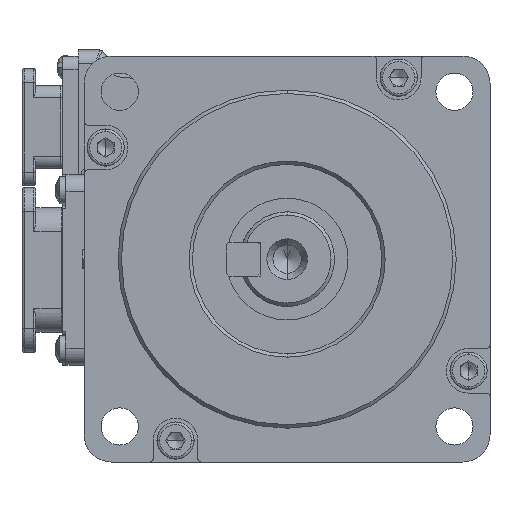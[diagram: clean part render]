
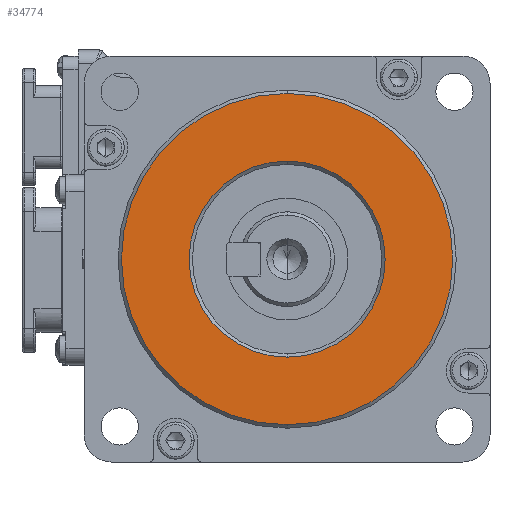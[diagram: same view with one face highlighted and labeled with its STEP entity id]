
A CAD part, left-side view. The second image highlights one B-rep face of the part: STEP entity #34774.
In plain terms, the highlighted planar face has unit normal (-1, 0, 0).
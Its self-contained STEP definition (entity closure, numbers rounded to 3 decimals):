
#4857 = CARTESIAN_POINT ( 'NONE',  ( -58., -9.238, 153.579 ) ) ;
#8718 = CARTESIAN_POINT ( 'NONE',  ( -58., -9.238, 129.079 ) ) ;
#8976 = VERTEX_POINT ( 'NONE', #26554 ) ;
#12891 = AXIS2_PLACEMENT_3D ( 'NONE', #40097, #70892, #109957 ) ;
#15016 = ORIENTED_EDGE ( 'NONE', *, *, #34383, .T. ) ;
#17735 = CARTESIAN_POINT ( 'NONE',  ( -58., -9.238, 104.579 ) ) ;
#18112 = CIRCLE ( 'NONE', #99589, 24.5 ) ;
#19735 = ORIENTED_EDGE ( 'NONE', *, *, #117626, .T. ) ;
#26554 = CARTESIAN_POINT ( 'NONE',  ( -58., -9.238, 143.579 ) ) ;
#29985 = DIRECTION ( 'NONE',  ( 0., 0., -1. ) ) ;
#30562 = EDGE_LOOP ( 'NONE', ( #15016, #19735 ) ) ;
#32841 = FACE_OUTER_BOUND ( 'NONE', #30562, .T. ) ;
#34383 = EDGE_CURVE ( 'NONE', #49541, #99273, #48518, .T. ) ;
#34774 = ADVANCED_FACE ( 'NONE', ( #59194, #32841 ), #128123, .F. ) ;
#39034 = CIRCLE ( 'NONE', #77547, 14.5 ) ;
#40097 = CARTESIAN_POINT ( 'NONE',  ( -58., -9.238, 129.079 ) ) ;
#40430 = DIRECTION ( 'NONE',  ( 0., 0., -1. ) ) ;
#47450 = CIRCLE ( 'NONE', #76026, 14.5 ) ;
#48386 = DIRECTION ( 'NONE',  ( 0., 0., -1. ) ) ;
#48518 = CIRCLE ( 'NONE', #12891, 24.5 ) ;
#49202 = CARTESIAN_POINT ( 'NONE',  ( -58., -9.238, 129.079 ) ) ;
#49541 = VERTEX_POINT ( 'NONE', #17735 ) ;
#59194 = FACE_BOUND ( 'NONE', #102135, .T. ) ;
#59372 = DIRECTION ( 'NONE',  ( 0., 0., -1. ) ) ;
#60852 = CARTESIAN_POINT ( 'NONE',  ( -58., -9.238, 129.079 ) ) ;
#67912 = DIRECTION ( 'NONE',  ( 1., 0., 0. ) ) ;
#69348 = CARTESIAN_POINT ( 'NONE',  ( -58., -9.238, 129.079 ) ) ;
#70892 = DIRECTION ( 'NONE',  ( -1., 0., 0. ) ) ;
#73919 = EDGE_CURVE ( 'NONE', #104717, #8976, #39034, .T. ) ;
#76026 = AXIS2_PLACEMENT_3D ( 'NONE', #60852, #110303, #40430 ) ;
#76880 = ORIENTED_EDGE ( 'NONE', *, *, #73919, .T. ) ;
#77547 = AXIS2_PLACEMENT_3D ( 'NONE', #49202, #67912, #48386 ) ;
#79381 = EDGE_CURVE ( 'NONE', #8976, #104717, #47450, .T. ) ;
#79632 = ORIENTED_EDGE ( 'NONE', *, *, #79381, .T. ) ;
#91317 = CARTESIAN_POINT ( 'NONE',  ( -58., -9.238, 114.579 ) ) ;
#99273 = VERTEX_POINT ( 'NONE', #4857 ) ;
#99589 = AXIS2_PLACEMENT_3D ( 'NONE', #69348, #119269, #59372 ) ;
#102135 = EDGE_LOOP ( 'NONE', ( #79632, #76880 ) ) ;
#104717 = VERTEX_POINT ( 'NONE', #91317 ) ;
#107678 = DIRECTION ( 'NONE',  ( 1., 0., 0. ) ) ;
#109957 = DIRECTION ( 'NONE',  ( 0., 0., -1. ) ) ;
#110303 = DIRECTION ( 'NONE',  ( 1., 0., 0. ) ) ;
#112700 = AXIS2_PLACEMENT_3D ( 'NONE', #8718, #107678, #29985 ) ;
#117626 = EDGE_CURVE ( 'NONE', #99273, #49541, #18112, .T. ) ;
#119269 = DIRECTION ( 'NONE',  ( -1., 0., 0. ) ) ;
#128123 = PLANE ( 'NONE',  #112700 ) ;
